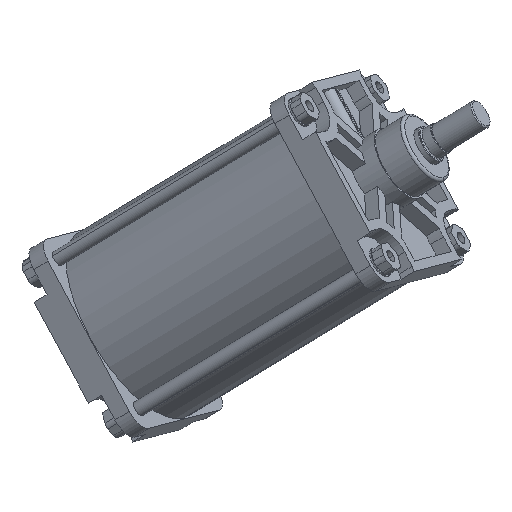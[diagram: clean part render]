
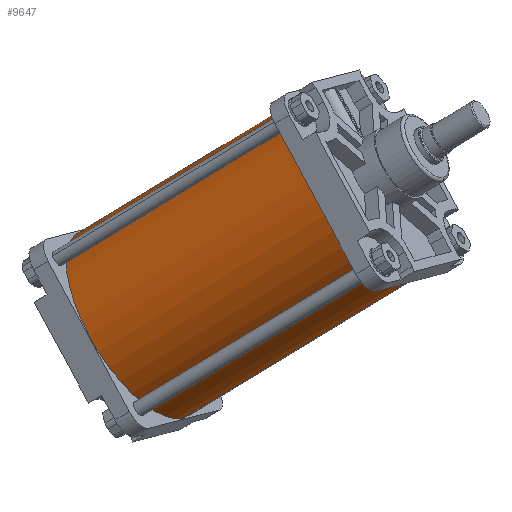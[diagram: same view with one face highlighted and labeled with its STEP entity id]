
A CAD part, top view. The second image highlights one B-rep face of the part: STEP entity #9647.
In plain terms, the highlighted cylindrical face has radius 168 mm (diameter 336 mm), a partial arc.
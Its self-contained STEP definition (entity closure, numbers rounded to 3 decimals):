
#8886=CARTESIAN_POINT('Vertex',(0.,168.,0.)) ;
#8888=CARTESIAN_POINT('Vertex',(0.,-168.,0.)) ;
#8891=CARTESIAN_POINT('Axis2P3D Location',(0.,0.,0.)) ;
#9605=CARTESIAN_POINT('Axis2P3D Location',(-228.,0.,0.)) ;
#9610=CARTESIAN_POINT('Line Origine',(-228.,168.,0.)) ;
#9614=CARTESIAN_POINT('Vertex',(-456.,168.,0.)) ;
#9617=CARTESIAN_POINT('Line Origine',(-228.,-168.,0.)) ;
#9621=CARTESIAN_POINT('Vertex',(-456.,-168.,0.)) ;
#9636=CARTESIAN_POINT('Axis2P3D Location',(-456.,0.,0.)) ;
#8892=DIRECTION('Axis2P3D Direction',(1.,0.,0.)) ;
#9606=DIRECTION('Axis2P3D Direction',(-1.,-0.,0.)) ;
#9607=DIRECTION('Axis2P3D XDirection',(0.,-1.,0.)) ;
#9611=DIRECTION('Vector Direction',(-1.,0.,0.)) ;
#9618=DIRECTION('Vector Direction',(-1.,0.,0.)) ;
#9637=DIRECTION('Axis2P3D Direction',(-1.,-0.,0.)) ;
#8893=AXIS2_PLACEMENT_3D('Circle Axis2P3D',#8891,#8892,$) ;
#9608=AXIS2_PLACEMENT_3D('Cylinder Axis2P3D',#9605,#9606,#9607) ;
#9638=AXIS2_PLACEMENT_3D('Circle Axis2P3D',#9636,#9637,$) ;
#9642=ORIENTED_EDGE('',*,*,#9623,.F.) ;
#9643=ORIENTED_EDGE('',*,*,#8895,.T.) ;
#9644=ORIENTED_EDGE('',*,*,#9616,.T.) ;
#9645=ORIENTED_EDGE('',*,*,#9640,.F.) ;
#9612=VECTOR('Line Direction',#9611,1.) ;
#9619=VECTOR('Line Direction',#9618,1.) ;
#9647=ADVANCED_FACE('PartBody',(#9646),#9609,.T.) ;
#8894=CIRCLE('generated circle',#8893,168.) ;
#9639=CIRCLE('generated circle',#9638,168.) ;
#9609=CYLINDRICAL_SURFACE('generated cylinder',#9608,168.) ;
#8895=EDGE_CURVE('',#8889,#8887,#8894,.F.) ;
#9616=EDGE_CURVE('',#8887,#9615,#9613,.T.) ;
#9623=EDGE_CURVE('',#8889,#9622,#9620,.T.) ;
#9640=EDGE_CURVE('',#9622,#9615,#9639,.T.) ;
#9641=EDGE_LOOP('',(#9642,#9643,#9644,#9645)) ;
#9646=FACE_OUTER_BOUND('',#9641,.T.) ;
#9613=LINE('Line',#9610,#9612) ;
#9620=LINE('Line',#9617,#9619) ;
#8887=VERTEX_POINT('',#8886) ;
#8889=VERTEX_POINT('',#8888) ;
#9615=VERTEX_POINT('',#9614) ;
#9622=VERTEX_POINT('',#9621) ;
